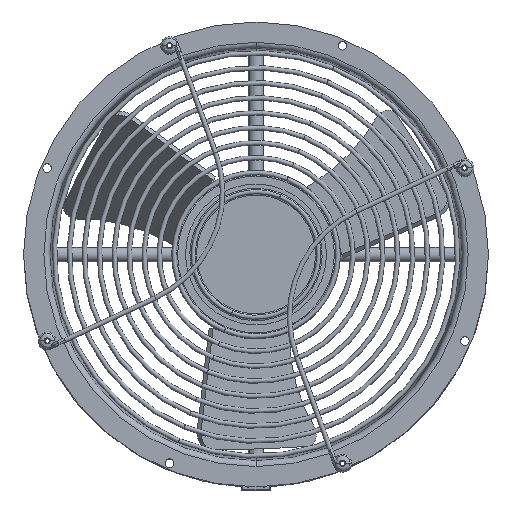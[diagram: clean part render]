
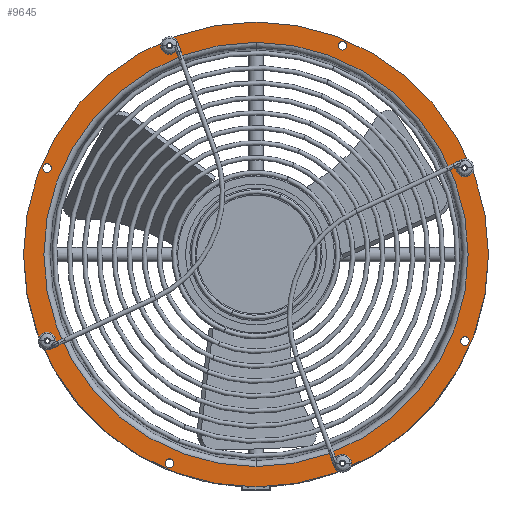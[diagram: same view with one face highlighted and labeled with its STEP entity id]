
A CAD part, top view. The second image highlights one B-rep face of the part: STEP entity #9645.
In plain terms, the highlighted planar face has unit normal (0, 0, 1).
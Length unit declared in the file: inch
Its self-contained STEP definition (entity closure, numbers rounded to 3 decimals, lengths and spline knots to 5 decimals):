
#1030=CARTESIAN_POINT('',(0.,0.,3.5));
#1031=DIRECTION('',(0.,0.,-1.));
#1032=DIRECTION('',(-1.,0.,0.));
#1033=AXIS2_PLACEMENT_3D('',#1030,#1031,#1032);
#1035=CARTESIAN_POINT('',(0.,0.,3.5));
#1036=DIRECTION('',(0.,0.,-1.));
#1037=DIRECTION('',(1.,0.,0.));
#1038=AXIS2_PLACEMENT_3D('',#1035,#1036,#1037);
#1040=CARTESIAN_POINT('',(-4.49131,-1.86036,3.5));
#1041=DIRECTION('',(0.,0.,1.));
#1042=DIRECTION('',(0.,1.,0.));
#1043=AXIS2_PLACEMENT_3D('',#1040,#1041,#1042);
#1045=CARTESIAN_POINT('',(-4.49131,-1.86036,3.5));
#1046=DIRECTION('',(0.,0.,1.));
#1047=DIRECTION('',(0.,-1.,0.));
#1048=AXIS2_PLACEMENT_3D('',#1045,#1046,#1047);
#1050=CARTESIAN_POINT('',(1.86036,-4.49131,3.5));
#1051=DIRECTION('',(0.,0.,1.));
#1052=DIRECTION('',(0.,1.,0.));
#1053=AXIS2_PLACEMENT_3D('',#1050,#1051,#1052);
#1055=CARTESIAN_POINT('',(1.86036,-4.49131,3.5));
#1056=DIRECTION('',(0.,0.,1.));
#1057=DIRECTION('',(0.,-1.,0.));
#1058=AXIS2_PLACEMENT_3D('',#1055,#1056,#1057);
#1060=CARTESIAN_POINT('',(4.49131,-1.86036,3.5));
#1061=DIRECTION('',(0.,0.,1.));
#1062=DIRECTION('',(0.,1.,0.));
#1063=AXIS2_PLACEMENT_3D('',#1060,#1061,#1062);
#1065=CARTESIAN_POINT('',(4.49131,-1.86036,3.5));
#1066=DIRECTION('',(0.,0.,1.));
#1067=DIRECTION('',(0.,-1.,0.));
#1068=AXIS2_PLACEMENT_3D('',#1065,#1066,#1067);
#1070=CARTESIAN_POINT('',(-4.49131,1.86036,3.5));
#1071=DIRECTION('',(0.,0.,1.));
#1072=DIRECTION('',(0.,1.,0.));
#1073=AXIS2_PLACEMENT_3D('',#1070,#1071,#1072);
#1075=CARTESIAN_POINT('',(-4.49131,1.86036,3.5));
#1076=DIRECTION('',(0.,0.,1.));
#1077=DIRECTION('',(0.,-1.,0.));
#1078=AXIS2_PLACEMENT_3D('',#1075,#1076,#1077);
#1080=CARTESIAN_POINT('',(4.49131,1.86036,3.5));
#1081=DIRECTION('',(0.,0.,1.));
#1082=DIRECTION('',(0.,1.,0.));
#1083=AXIS2_PLACEMENT_3D('',#1080,#1081,#1082);
#1085=CARTESIAN_POINT('',(4.49131,1.86036,3.5));
#1086=DIRECTION('',(0.,0.,1.));
#1087=DIRECTION('',(0.,-1.,0.));
#1088=AXIS2_PLACEMENT_3D('',#1085,#1086,#1087);
#1090=CARTESIAN_POINT('',(-1.86036,4.49131,3.5));
#1091=DIRECTION('',(0.,0.,1.));
#1092=DIRECTION('',(0.,1.,0.));
#1093=AXIS2_PLACEMENT_3D('',#1090,#1091,#1092);
#1095=CARTESIAN_POINT('',(-1.86036,4.49131,3.5));
#1096=DIRECTION('',(0.,0.,1.));
#1097=DIRECTION('',(0.,-1.,0.));
#1098=AXIS2_PLACEMENT_3D('',#1095,#1096,#1097);
#1100=CARTESIAN_POINT('',(1.86036,4.49131,3.5));
#1101=DIRECTION('',(0.,0.,1.));
#1102=DIRECTION('',(0.,1.,0.));
#1103=AXIS2_PLACEMENT_3D('',#1100,#1101,#1102);
#1105=CARTESIAN_POINT('',(1.86036,4.49131,3.5));
#1106=DIRECTION('',(0.,0.,1.));
#1107=DIRECTION('',(0.,-1.,0.));
#1108=AXIS2_PLACEMENT_3D('',#1105,#1106,#1107);
#1110=CARTESIAN_POINT('',(-1.86036,-4.49131,3.5));
#1111=DIRECTION('',(0.,0.,1.));
#1112=DIRECTION('',(0.,1.,0.));
#1113=AXIS2_PLACEMENT_3D('',#1110,#1111,#1112);
#1115=CARTESIAN_POINT('',(-1.86036,-4.49131,3.5));
#1116=DIRECTION('',(0.,0.,1.));
#1117=DIRECTION('',(0.,-1.,0.));
#1118=AXIS2_PLACEMENT_3D('',#1115,#1116,#1117);
#1120=CARTESIAN_POINT('',(0.,0.,3.5));
#1121=DIRECTION('',(0.,0.,1.));
#1122=DIRECTION('',(-0.001,1.,0.));
#1123=AXIS2_PLACEMENT_3D('',#1120,#1121,#1122);
#1125=CARTESIAN_POINT('',(0.,0.,3.5));
#1126=DIRECTION('',(0.,0.,1.));
#1127=DIRECTION('',(0.001,-1.,0.));
#1128=AXIS2_PLACEMENT_3D('',#1125,#1126,#1127);
#1194=CARTESIAN_POINT('',(-0.00277,4.563,3.5));
#1195=CARTESIAN_POINT('',(-0.00184,4.563,3.5));
#1196=CARTESIAN_POINT('',(-0.00092,4.563,3.5));
#1197=CARTESIAN_POINT('',(0.,4.563,3.5));
#1199=CARTESIAN_POINT('',(0.00277,-4.563,3.5));
#1200=CARTESIAN_POINT('',(0.00184,-4.563,3.5));
#1201=CARTESIAN_POINT('',(0.00092,-4.563,3.5));
#1202=CARTESIAN_POINT('',(0.,-4.563,3.5));
#6623=CARTESIAN_POINT('',(5.,0.,3.5));
#6624=VERTEX_POINT('',#6623);
#7373=CARTESIAN_POINT('',(-4.49131,-1.95436,3.5));
#7374=VERTEX_POINT('',#7373);
#7375=CARTESIAN_POINT('',(-4.49131,-1.76636,3.5));
#7376=VERTEX_POINT('',#7375);
#7377=CARTESIAN_POINT('',(-5.,0.,3.5));
#7378=VERTEX_POINT('',#7377);
#7379=CARTESIAN_POINT('',(1.86036,-4.39731,3.5));
#7380=CARTESIAN_POINT('',(1.86036,-4.58531,3.5));
#7381=VERTEX_POINT('',#7379);
#7382=VERTEX_POINT('',#7380);
#7383=CARTESIAN_POINT('',(4.49131,-1.76636,3.5));
#7384=CARTESIAN_POINT('',(4.49131,-1.95436,3.5));
#7385=VERTEX_POINT('',#7383);
#7386=VERTEX_POINT('',#7384);
#7387=CARTESIAN_POINT('',(-4.49131,1.95436,3.5));
#7388=CARTESIAN_POINT('',(-4.49131,1.76636,3.5));
#7389=VERTEX_POINT('',#7387);
#7390=VERTEX_POINT('',#7388);
#7391=CARTESIAN_POINT('',(4.49131,1.95436,3.5));
#7392=CARTESIAN_POINT('',(4.49131,1.76636,3.5));
#7393=VERTEX_POINT('',#7391);
#7394=VERTEX_POINT('',#7392);
#7395=CARTESIAN_POINT('',(-1.86036,4.58531,3.5));
#7396=CARTESIAN_POINT('',(-1.86036,4.39731,3.5));
#7397=VERTEX_POINT('',#7395);
#7398=VERTEX_POINT('',#7396);
#7399=CARTESIAN_POINT('',(1.86036,4.58531,3.5));
#7400=CARTESIAN_POINT('',(1.86036,4.39731,3.5));
#7401=VERTEX_POINT('',#7399);
#7402=VERTEX_POINT('',#7400);
#7403=CARTESIAN_POINT('',(-1.86036,-4.39731,3.5));
#7404=CARTESIAN_POINT('',(-1.86036,-4.58531,3.5));
#7405=VERTEX_POINT('',#7403);
#7406=VERTEX_POINT('',#7404);
#7407=VERTEX_POINT('',#1194);
#7408=VERTEX_POINT('',#1197);
#7409=CARTESIAN_POINT('',(0.,-4.563,3.5));
#7410=VERTEX_POINT('',#7409);
#7411=VERTEX_POINT('',#1199);
#9578=CARTESIAN_POINT('',(0.,0.,3.5));
#9579=DIRECTION('',(0.,0.,1.));
#9580=DIRECTION('',(1.,0.,0.));
#9581=AXIS2_PLACEMENT_3D('',#9578,#9579,#9580);
#9582=PLANE('',#9581);
#9583=ORIENTED_EDGE('',*,*,#9544,.T.);
#9584=ORIENTED_EDGE('',*,*,#9565,.T.);
#9585=EDGE_LOOP('',(#9583,#9584));
#9586=FACE_OUTER_BOUND('',#9585,.F.);
#9588=ORIENTED_EDGE('',*,*,#9587,.T.);
#9590=ORIENTED_EDGE('',*,*,#9589,.T.);
#9591=EDGE_LOOP('',(#9588,#9590));
#9592=FACE_BOUND('',#9591,.F.);
#9594=ORIENTED_EDGE('',*,*,#9593,.T.);
#9596=ORIENTED_EDGE('',*,*,#9595,.T.);
#9597=EDGE_LOOP('',(#9594,#9596));
#9598=FACE_BOUND('',#9597,.F.);
#9600=ORIENTED_EDGE('',*,*,#9599,.T.);
#9602=ORIENTED_EDGE('',*,*,#9601,.T.);
#9603=EDGE_LOOP('',(#9600,#9602));
#9604=FACE_BOUND('',#9603,.F.);
#9606=ORIENTED_EDGE('',*,*,#9605,.T.);
#9608=ORIENTED_EDGE('',*,*,#9607,.T.);
#9609=EDGE_LOOP('',(#9606,#9608));
#9610=FACE_BOUND('',#9609,.F.);
#9612=ORIENTED_EDGE('',*,*,#9611,.T.);
#9614=ORIENTED_EDGE('',*,*,#9613,.T.);
#9615=EDGE_LOOP('',(#9612,#9614));
#9616=FACE_BOUND('',#9615,.F.);
#9618=ORIENTED_EDGE('',*,*,#9617,.T.);
#9620=ORIENTED_EDGE('',*,*,#9619,.T.);
#9621=EDGE_LOOP('',(#9618,#9620));
#9622=FACE_BOUND('',#9621,.F.);
#9624=ORIENTED_EDGE('',*,*,#9623,.T.);
#9626=ORIENTED_EDGE('',*,*,#9625,.T.);
#9627=EDGE_LOOP('',(#9624,#9626));
#9628=FACE_BOUND('',#9627,.F.);
#9630=ORIENTED_EDGE('',*,*,#9629,.T.);
#9632=ORIENTED_EDGE('',*,*,#9631,.T.);
#9633=EDGE_LOOP('',(#9630,#9632));
#9634=FACE_BOUND('',#9633,.F.);
#9636=ORIENTED_EDGE('',*,*,#9635,.F.);
#9638=ORIENTED_EDGE('',*,*,#9637,.T.);
#9640=ORIENTED_EDGE('',*,*,#9639,.F.);
#9642=ORIENTED_EDGE('',*,*,#9641,.T.);
#9643=EDGE_LOOP('',(#9636,#9638,#9640,#9642));
#9644=FACE_BOUND('',#9643,.F.);
#9645=ADVANCED_FACE('',(#9586,#9592,#9598,#9604,#9610,#9616,#9622,#9628,#9634,
#9644),#9582,.T.);
#1034=CIRCLE('',#1033,5.);
#1039=CIRCLE('',#1038,5.);
#1044=CIRCLE('',#1043,0.094);
#1049=CIRCLE('',#1048,0.094);
#1054=CIRCLE('',#1053,0.094);
#1059=CIRCLE('',#1058,0.094);
#1064=CIRCLE('',#1063,0.094);
#1069=CIRCLE('',#1068,0.094);
#1074=CIRCLE('',#1073,0.094);
#1079=CIRCLE('',#1078,0.094);
#1084=CIRCLE('',#1083,0.094);
#1089=CIRCLE('',#1088,0.094);
#1094=CIRCLE('',#1093,0.094);
#1099=CIRCLE('',#1098,0.094);
#1104=CIRCLE('',#1103,0.094);
#1109=CIRCLE('',#1108,0.094);
#1114=CIRCLE('',#1113,0.094);
#1119=CIRCLE('',#1118,0.094);
#1124=CIRCLE('',#1123,4.563);
#1129=CIRCLE('',#1128,4.563);
#1198=B_SPLINE_CURVE_WITH_KNOTS('',3,(#1194,#1195,#1196,#1197),.UNSPECIFIED.,
.F.,.F.,(4,4),(0.,1.),.UNSPECIFIED.);
#1203=B_SPLINE_CURVE_WITH_KNOTS('',3,(#1199,#1200,#1201,#1202),.UNSPECIFIED.,
.F.,.F.,(4,4),(0.,1.),.UNSPECIFIED.);
#9544=EDGE_CURVE('',#7378,#6624,#1034,.T.);
#9565=EDGE_CURVE('',#6624,#7378,#1039,.T.);
#9587=EDGE_CURVE('',#7376,#7374,#1044,.T.);
#9589=EDGE_CURVE('',#7374,#7376,#1049,.T.);
#9593=EDGE_CURVE('',#7381,#7382,#1054,.T.);
#9595=EDGE_CURVE('',#7382,#7381,#1059,.T.);
#9599=EDGE_CURVE('',#7385,#7386,#1064,.T.);
#9601=EDGE_CURVE('',#7386,#7385,#1069,.T.);
#9605=EDGE_CURVE('',#7389,#7390,#1074,.T.);
#9607=EDGE_CURVE('',#7390,#7389,#1079,.T.);
#9611=EDGE_CURVE('',#7393,#7394,#1084,.T.);
#9613=EDGE_CURVE('',#7394,#7393,#1089,.T.);
#9617=EDGE_CURVE('',#7397,#7398,#1094,.T.);
#9619=EDGE_CURVE('',#7398,#7397,#1099,.T.);
#9623=EDGE_CURVE('',#7401,#7402,#1104,.T.);
#9625=EDGE_CURVE('',#7402,#7401,#1109,.T.);
#9629=EDGE_CURVE('',#7405,#7406,#1114,.T.);
#9631=EDGE_CURVE('',#7406,#7405,#1119,.T.);
#9635=EDGE_CURVE('',#7407,#7408,#1198,.T.);
#9637=EDGE_CURVE('',#7407,#7410,#1124,.T.);
#9639=EDGE_CURVE('',#7411,#7410,#1203,.T.);
#9641=EDGE_CURVE('',#7411,#7408,#1129,.T.);
